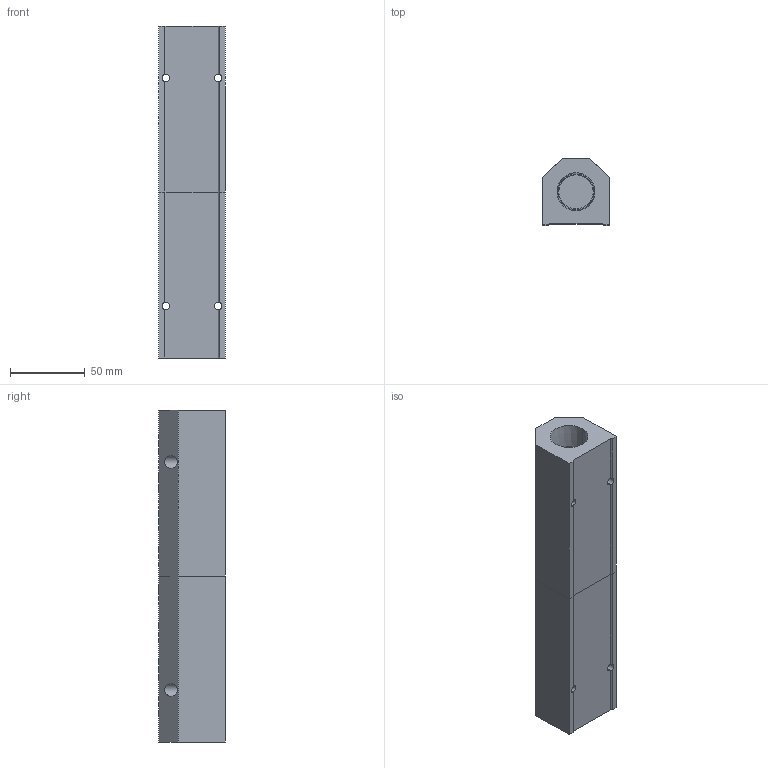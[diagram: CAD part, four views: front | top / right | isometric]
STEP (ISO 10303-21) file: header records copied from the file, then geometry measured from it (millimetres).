
FILE_DESCRIPTION (( 'STEP AP214' ), '1' );
FILE_NAME ('ALM8C-N4N12-222RB.step', '2022-02-06T14:18:57', ( '' ), ( '' ), 'SwSTEP 2.0', 'SolidWorks 2020', '' );
FILE_SCHEMA (( 'AUTOMOTIVE_DESIGN' ));
Length unit declared in the file: millimetre
Products named in the file (1): ALM8C-N4N12-222RB
Bounding box: 44.5 x 44.5 x 222 mm (x, y, z)
Volume: 286047.8 mm3; surface area: 63268.5 mm2
Topology: 2 solids, 2 shells, 338 faces, 890 edges, 588 vertices
Faces by surface type: plane 220, bspline 68, cone 26, cylinder 24
Entity records: 18563 total; most frequent: CARTESIAN_POINT 7395, ORIENTED_EDGE 1780, DIRECTION 1324, EDGE_CURVE 890, VECTOR 646, LINE 646, VERTEX_POINT 588, EDGE_LOOP 394
